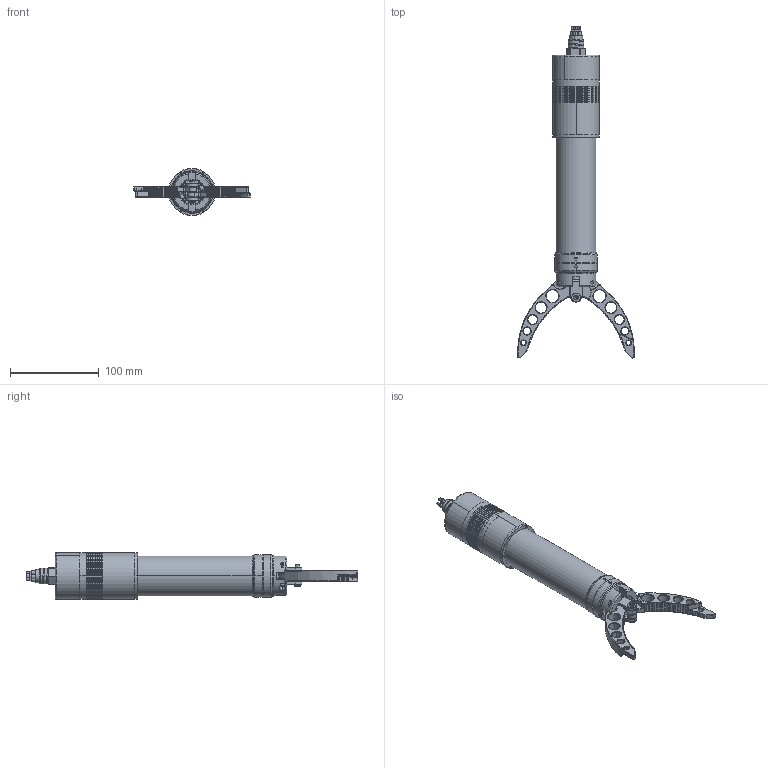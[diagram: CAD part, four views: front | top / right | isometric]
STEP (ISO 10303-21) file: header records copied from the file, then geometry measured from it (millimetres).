
FILE_DESCRIPTION (( 'STEP AP203' ), '1' );
FILE_NAME ('OceanGripperV6.35.STEP', '2025-09-12T01:45:10', ( '' ), ( '' ), 'SwSTEP 2.0', 'SolidWorks 2021', '' );
FILE_SCHEMA (( 'CONFIG_CONTROL_DESIGN' ));
Length unit declared in the file: millimetre
Products named in the file (29): _X2_5F80590D67465934_X0_; _X2_683C83B15708_X0___X2_51855F84_X0_28mm; TY_m0.4_T27; _X2_683C83B15708_X0___X2_51855F84_X0_35; 2-S40__X2_5E9558F3_X0_; _X2_6ED173AF_X0_; 4-S40__X2_80548F745668_X0_; _X2_56DB82AF96326C3463D25934_X0_(_X2_9ED88BA4_X0_)-171; OceanGripperV6.35; 9-_X2_673A68B0722A5B8988C55EA7_X0_; _X2_56DB82AF96326C3463D25934_X0_(_X2_9ED88BA4_X0_)-173; _X2_87BA9489_X0_; _X2_56DB6C1F57AB7247_X0_; _X2_56DB82AF96326C3463D25934_X0_(_X2_9ED88BA4_X0_)-170; _X2_7EBF5F84_X0_1.5mm__X2_51855F84_X0_46mm_Oring; 1-S40__X2_4E0A58F3_X0_; _X2_56DB82AF96326C3463D25934_X0_(_X2_9ED88BA4_X0_)-168; _X2_56DB82AF96326C3463D25934_X0_(_X2_9ED88BA4_X0_)-169; 8-J2_X2_524D58F3_X0_; TY_Sun_m0.4_T18; socket head cap screw_iso(ISO 4762 M3 x 6 - 6N); _X2_8F6C52A895008F74_X0_; _X2_4E1D674687BA6BCD_X0_; _X2_7EBF5F84_X0_1mm__X2_51855F84_X0_6mm_Oring; 28_X2_673A68B0722A_X0_; 10-316L-_X2_5F80590D4E0D950894A28F74_X0_; 菁裔_V2.1; _X2_56DB82AF96326C3463D25934_X0_(_X2_9ED88BA4_X0_)-172; _X2_96326C3463D259345BC65C015708_X0_
Assembly tree (40 placements, depth 2):
  OceanGripperV6.35
    8-J2_X2_524D58F3_X0_
    9-_X2_673A68B0722A5B8988C55EA7_X0_
    _X2_56DB82AF96326C3463D25934_X0_(_X2_9ED88BA4_X0_)-168
    _X2_56DB82AF96326C3463D25934_X0_(_X2_9ED88BA4_X0_)-169
    _X2_56DB82AF96326C3463D25934_X0_(_X2_9ED88BA4_X0_)-170
    _X2_56DB82AF96326C3463D25934_X0_(_X2_9ED88BA4_X0_)-171
    _X2_56DB82AF96326C3463D25934_X0_(_X2_9ED88BA4_X0_)-172
    _X2_56DB82AF96326C3463D25934_X0_(_X2_9ED88BA4_X0_)-173
    4-S40__X2_80548F745668_X0_
    TY_m0.4_T27  x3
    TY_Sun_m0.4_T18
    _X2_683C83B15708_X0___X2_51855F84_X0_28mm
    1-S40__X2_4E0A58F3_X0_
    2-S40__X2_5E9558F3_X0_
    _X2_6ED173AF_X0_
    _X2_7EBF5F84_X0_1.5mm__X2_51855F84_X0_46mm_Oring  x3
    _X2_96326C3463D259345BC65C015708_X0_
    菁裔_V2.1
    _X2_7EBF5F84_X0_1mm__X2_51855F84_X0_6mm_Oring  x3
    10-316L-_X2_5F80590D4E0D950894A28F74_X0_
    socket head cap screw_iso(ISO 4762 M3 x 6 - 6N)
    _X2_87BA9489_X0_  x2
    _X2_8F6C52A895008F74_X0_
    _X2_4E1D674687BA6BCD_X0_
    _X2_56DB6C1F57AB7247_X0_  x5
    _X2_5F80590D67465934_X0_
    _X2_683C83B15708_X0___X2_51855F84_X0_35
    28_X2_673A68B0722A_X0_  x2
Bounding box: 131.44 x 374.7 x 53 mm (x, y, z)
Volume: 190724.4 mm3; surface area: 152636.8 mm2
Topology: 42 solids, 42 shells, 2352 faces, 6068 edges, 3878 vertices
Faces by surface type: cylinder 983, cone 480, bspline 433, plane 430, torus 26
Entity records: 101216 total; most frequent: CARTESIAN_POINT 54408, ORIENTED_EDGE 9204, DIRECTION 9022, EDGE_CURVE 4602, AXIS2_PLACEMENT_3D 3718, VERTEX_POINT 2963, EDGE_LOOP 2125, CIRCLE 2120
